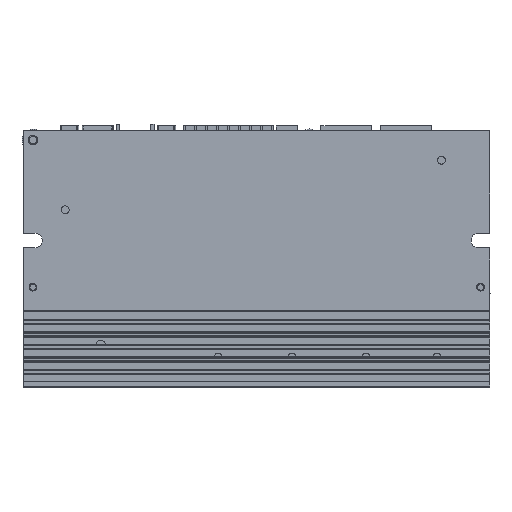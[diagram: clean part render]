
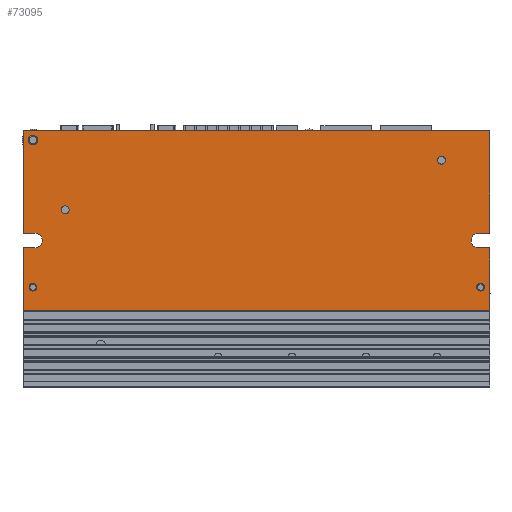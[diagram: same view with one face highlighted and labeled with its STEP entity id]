
A CAD part, front view. The second image highlights one B-rep face of the part: STEP entity #73095.
In plain terms, the highlighted planar face has unit normal (0, -1, 0).
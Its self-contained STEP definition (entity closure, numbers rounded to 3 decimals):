
#1855=CIRCLE('',#76532,1.25);
#1856=CIRCLE('',#76533,1.25);
#1857=CIRCLE('',#76534,2.35);
#1858=CIRCLE('',#76535,2.35);
#1859=CIRCLE('',#76536,1.5);
#1860=CIRCLE('',#76537,1.25);
#1861=CIRCLE('',#76538,1.25);
#3934=ORIENTED_EDGE('',*,*,#21865,.T.);
#3935=ORIENTED_EDGE('',*,*,#21866,.T.);
#3936=ORIENTED_EDGE('',*,*,#21867,.F.);
#3937=ORIENTED_EDGE('',*,*,#21868,.F.);
#3938=ORIENTED_EDGE('',*,*,#21869,.T.);
#3939=ORIENTED_EDGE('',*,*,#21870,.F.);
#3940=ORIENTED_EDGE('',*,*,#21871,.T.);
#3941=ORIENTED_EDGE('',*,*,#21872,.T.);
#3942=ORIENTED_EDGE('',*,*,#21873,.F.);
#3943=ORIENTED_EDGE('',*,*,#21874,.F.);
#3944=ORIENTED_EDGE('',*,*,#21875,.T.);
#3945=ORIENTED_EDGE('',*,*,#21840,.F.);
#3946=ORIENTED_EDGE('',*,*,#21864,.T.);
#3947=ORIENTED_EDGE('',*,*,#21876,.T.);
#3948=ORIENTED_EDGE('',*,*,#21877,.F.);
#3949=ORIENTED_EDGE('',*,*,#21878,.F.);
#3950=ORIENTED_EDGE('',*,*,#21879,.F.);
#21840=EDGE_CURVE('',#30844,#30845,#36828,.T.);
#21864=EDGE_CURVE('',#30844,#30865,#36844,.T.);
#21865=EDGE_CURVE('',#30866,#30866,#1855,.T.);
#21866=EDGE_CURVE('',#30867,#30867,#1856,.T.);
#21867=EDGE_CURVE('',#30868,#30869,#36845,.T.);
#21868=EDGE_CURVE('',#30870,#30868,#36846,.T.);
#21869=EDGE_CURVE('',#30870,#30871,#36847,.T.);
#21870=EDGE_CURVE('',#30872,#30871,#36848,.T.);
#21871=EDGE_CURVE('',#30872,#30873,#36849,.T.);
#21872=EDGE_CURVE('',#30873,#30874,#1857,.T.);
#21873=EDGE_CURVE('',#30875,#30874,#36850,.T.);
#21874=EDGE_CURVE('',#30876,#30875,#36851,.T.);
#21875=EDGE_CURVE('',#30876,#30845,#36852,.T.);
#21876=EDGE_CURVE('',#30865,#30869,#1858,.T.);
#21877=EDGE_CURVE('',#30877,#30877,#1859,.T.);
#21878=EDGE_CURVE('',#30878,#30878,#1860,.T.);
#21879=EDGE_CURVE('',#30879,#30879,#1861,.T.);
#30844=VERTEX_POINT('',#98755);
#30845=VERTEX_POINT('',#98757);
#30865=VERTEX_POINT('',#98803);
#30866=VERTEX_POINT('',#98807);
#30867=VERTEX_POINT('',#98809);
#30868=VERTEX_POINT('',#98811);
#30869=VERTEX_POINT('',#98812);
#30870=VERTEX_POINT('',#98814);
#30871=VERTEX_POINT('',#98816);
#30872=VERTEX_POINT('',#98818);
#30873=VERTEX_POINT('',#98820);
#30874=VERTEX_POINT('',#98822);
#30875=VERTEX_POINT('',#98824);
#30876=VERTEX_POINT('',#98826);
#30877=VERTEX_POINT('',#98830);
#30878=VERTEX_POINT('',#98832);
#30879=VERTEX_POINT('',#98834);
#36828=LINE('',#98756,#43367);
#36844=LINE('',#98804,#43383);
#36845=LINE('',#98810,#43384);
#36846=LINE('',#98813,#43385);
#36847=LINE('',#98815,#43386);
#36848=LINE('',#98817,#43387);
#36849=LINE('',#98819,#43388);
#36850=LINE('',#98823,#43389);
#36851=LINE('',#98825,#43390);
#36852=LINE('',#98827,#43391);
#43367=VECTOR('',#81755,1000.);
#43383=VECTOR('',#81793,1000.);
#43384=VECTOR('',#81800,1000.);
#43385=VECTOR('',#81801,1000.);
#43386=VECTOR('',#81802,1000.);
#43387=VECTOR('',#81803,1000.);
#43388=VECTOR('',#81804,1000.);
#43389=VECTOR('',#81807,1000.);
#43390=VECTOR('',#81808,1000.);
#43391=VECTOR('',#81809,1000.);
#49911=EDGE_LOOP('',(#3934));
#49912=EDGE_LOOP('',(#3935));
#49913=EDGE_LOOP('',(#3936,#3937,#3938,#3939,#3940,#3941,#3942,#3943,#3944,
#3945,#3946,#3947));
#49914=EDGE_LOOP('',(#3948));
#49915=EDGE_LOOP('',(#3949));
#49916=EDGE_LOOP('',(#3950));
#53862=FACE_BOUND('',#49911,.T.);
#53863=FACE_BOUND('',#49912,.T.);
#53864=FACE_BOUND('',#49913,.T.);
#53865=FACE_BOUND('',#49914,.T.);
#53866=FACE_BOUND('',#49915,.T.);
#53867=FACE_BOUND('',#49916,.T.);
#57808=PLANE('',#76531);
#73095=ADVANCED_FACE('',(#53862,#53863,#53864,#53865,#53866,#53867),#57808,
 .T.);
#76531=AXIS2_PLACEMENT_3D('',#98805,#81794,#81795);
#76532=AXIS2_PLACEMENT_3D('',#98806,#81796,#81797);
#76533=AXIS2_PLACEMENT_3D('',#98808,#81798,#81799);
#76534=AXIS2_PLACEMENT_3D('',#98821,#81805,#81806);
#76535=AXIS2_PLACEMENT_3D('',#98828,#81810,#81811);
#76536=AXIS2_PLACEMENT_3D('',#98829,#81812,#81813);
#76537=AXIS2_PLACEMENT_3D('',#98831,#81814,#81815);
#76538=AXIS2_PLACEMENT_3D('',#98833,#81816,#81817);
#81755=DIRECTION('',(0.,0.,1.));
#81793=DIRECTION('',(1.,0.,0.));
#81794=DIRECTION('',(0.,-1.,0.));
#81795=DIRECTION('',(0.,0.,-1.));
#81796=DIRECTION('',(0.,1.,0.));
#81797=DIRECTION('',(-1.,0.,0.));
#81798=DIRECTION('',(0.,1.,0.));
#81799=DIRECTION('',(-1.,0.,0.));
#81800=DIRECTION('',(1.,0.,0.));
#81801=DIRECTION('',(0.,0.,1.));
#81802=DIRECTION('',(1.,0.,0.));
#81803=DIRECTION('',(0.,0.,-1.));
#81804=DIRECTION('',(-1.,0.,0.));
#81805=DIRECTION('',(0.,1.,0.));
#81806=DIRECTION('',(0.,0.,-1.));
#81807=DIRECTION('',(-1.,0.,0.));
#81808=DIRECTION('',(0.,0.,-1.));
#81809=DIRECTION('',(-1.,0.,0.));
#81810=DIRECTION('',(0.,1.,0.));
#81811=DIRECTION('',(0.,0.,1.));
#81812=DIRECTION('',(0.,-1.,0.));
#81813=DIRECTION('',(-1.,0.,0.));
#81814=DIRECTION('',(0.,-1.,0.));
#81815=DIRECTION('',(-1.,0.,0.));
#81816=DIRECTION('',(0.,-1.,0.));
#81817=DIRECTION('',(-1.,0.,0.));
#98755=CARTESIAN_POINT('',(0.,7.3,-1.7));
#98756=CARTESIAN_POINT('',(0.,7.3,-1.7));
#98757=CARTESIAN_POINT('',(0.,7.3,31.));
#98803=CARTESIAN_POINT('',(3.65,7.3,-1.7));
#98804=CARTESIAN_POINT('',(0.,7.3,-1.7));
#98805=CARTESIAN_POINT('',(148.8,7.3,-25.5));
#98806=CARTESIAN_POINT('',(145.8,7.3,-18.9));
#98807=CARTESIAN_POINT('',(144.55,7.3,-18.9));
#98808=CARTESIAN_POINT('',(3.,7.3,-18.9));
#98809=CARTESIAN_POINT('',(1.75,7.3,-18.9));
#98810=CARTESIAN_POINT('',(0.,7.3,-6.4));
#98811=CARTESIAN_POINT('',(0.,7.3,-6.4));
#98812=CARTESIAN_POINT('',(3.65,7.3,-6.4));
#98813=CARTESIAN_POINT('',(0.,7.3,-26.3));
#98814=CARTESIAN_POINT('',(0.,7.3,-26.3));
#98815=CARTESIAN_POINT('',(0.,7.3,-26.3));
#98816=CARTESIAN_POINT('',(148.8,7.3,-26.3));
#98817=CARTESIAN_POINT('',(148.8,7.3,-6.4));
#98818=CARTESIAN_POINT('',(148.8,7.3,-6.4));
#98819=CARTESIAN_POINT('',(148.8,7.3,-6.4));
#98820=CARTESIAN_POINT('',(145.15,7.3,-6.4));
#98821=CARTESIAN_POINT('',(145.15,7.3,-4.05));
#98822=CARTESIAN_POINT('',(145.15,7.3,-1.7));
#98823=CARTESIAN_POINT('',(148.8,7.3,-1.7));
#98824=CARTESIAN_POINT('',(148.8,7.3,-1.7));
#98825=CARTESIAN_POINT('',(148.8,7.3,31.));
#98826=CARTESIAN_POINT('',(148.8,7.3,31.));
#98827=CARTESIAN_POINT('',(148.8,7.3,31.));
#98828=CARTESIAN_POINT('',(3.65,7.3,-4.05));
#98829=CARTESIAN_POINT('',(3.,7.3,28.));
#98830=CARTESIAN_POINT('',(1.5,7.3,28.));
#98831=CARTESIAN_POINT('',(13.3,7.3,5.8));
#98832=CARTESIAN_POINT('',(12.05,7.3,5.8));
#98833=CARTESIAN_POINT('',(133.3,7.3,21.6));
#98834=CARTESIAN_POINT('',(132.05,7.3,21.6));
